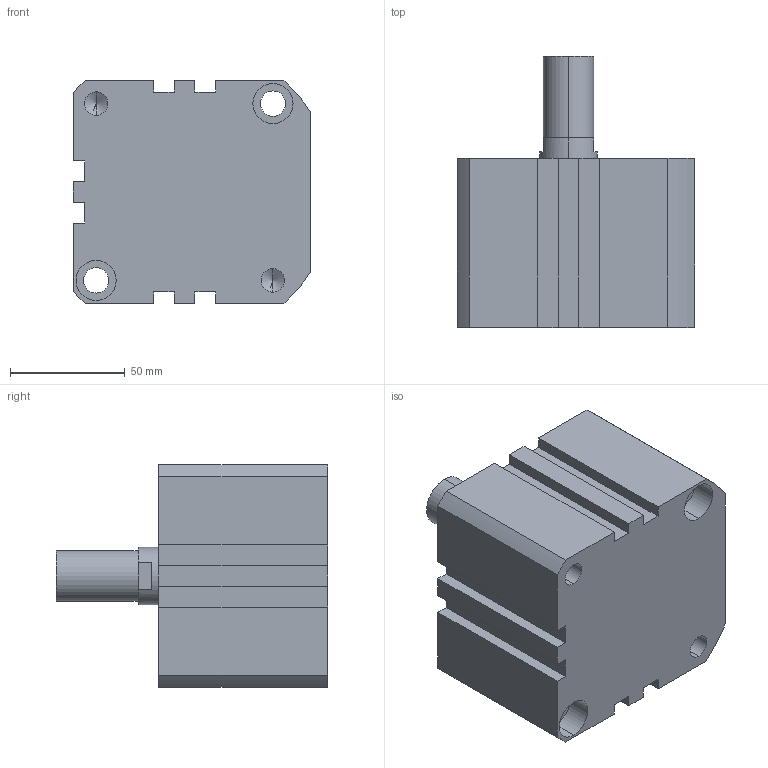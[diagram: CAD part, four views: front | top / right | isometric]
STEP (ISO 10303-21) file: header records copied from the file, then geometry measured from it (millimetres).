
FILE_DESCRIPTION (( 'STEP AP203' ), '1' );
FILE_NAME ('XG#M2-80D-10.STEP', '2016-05-24T02:20:25', ( '' ), ( '' ), 'SwSTEP 2.0', 'SolidWorks 2014', '' );
FILE_SCHEMA (( 'CONFIG_CONTROL_DESIGN' ));
Length unit declared in the file: millimetre
Products named in the file (1): XG#M2-80D-10
Bounding box: 103.5 x 118 x 97 mm (x, y, z)
Volume: 679707.8 mm3; surface area: 66649 mm2
Topology: 1 solids, 1 shells, 111 faces, 279 edges, 175 vertices
Faces by surface type: plane 48, cylinder 47, cone 16
Entity records: 3343 total; most frequent: DIRECTION 600, CARTESIAN_POINT 554, ORIENTED_EDGE 534, EDGE_CURVE 267, AXIS2_PLACEMENT_3D 221, VERTEX_POINT 175, VECTOR 158, LINE 158
